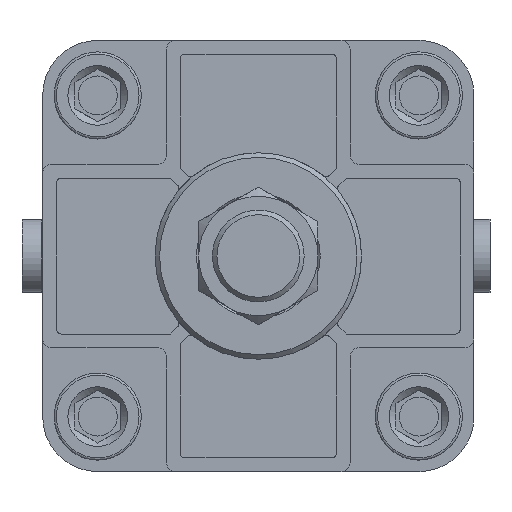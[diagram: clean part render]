
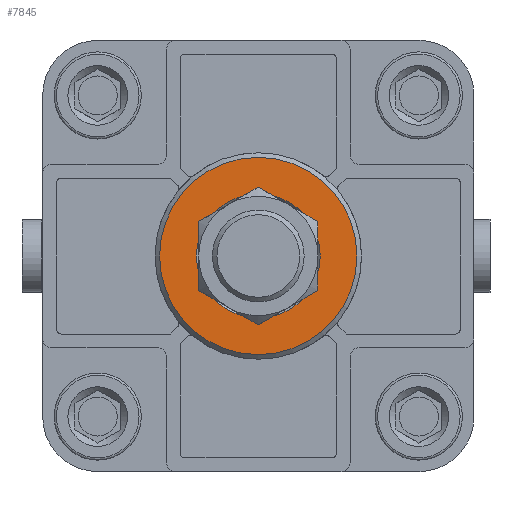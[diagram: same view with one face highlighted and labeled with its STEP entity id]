
A CAD part, front view. The second image highlights one B-rep face of the part: STEP entity #7845.
In plain terms, the highlighted planar face has unit normal (0, -1, 0).
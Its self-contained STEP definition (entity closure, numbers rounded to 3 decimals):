
#1308=ORIENTED_EDGE('',*,*,#3015,.T.);
#1309=ORIENTED_EDGE('',*,*,#3017,.T.);
#3015=EDGE_CURVE('',#3871,#3871,#4469,.T.);
#3017=EDGE_CURVE('',#3873,#3873,#4471,.F.);
#3871=VERTEX_POINT('',#10907);
#3873=VERTEX_POINT('',#10913);
#4469=CIRCLE('',#8260,13.5);
#4471=CIRCLE('',#8264,21.5);
#4793=EDGE_LOOP('',(#1308));
#4794=EDGE_LOOP('',(#1309));
#5315=FACE_BOUND('',#4793,.T.);
#5316=FACE_BOUND('',#4794,.T.);
#5829=PLANE('',#8263);
#7845=ADVANCED_FACE('',(#5315,#5316),#5829,.F.);
#8260=AXIS2_PLACEMENT_3D('',#10906,#8983,#8984);
#8263=AXIS2_PLACEMENT_3D('',#10911,#8989,#8990);
#8264=AXIS2_PLACEMENT_3D('',#10912,#8991,#8992);
#8983=DIRECTION('',(0.,1.,0.));
#8984=DIRECTION('',(0.,0.,1.));
#8989=DIRECTION('',(0.,1.,0.));
#8990=DIRECTION('',(0.,0.,1.));
#8991=DIRECTION('',(0.,1.,0.));
#8992=DIRECTION('',(0.,0.,1.));
#10906=CARTESIAN_POINT('',(0.,-56.,0.));
#10907=CARTESIAN_POINT('',(0.,-56.,13.5));
#10911=CARTESIAN_POINT('',(0.,-56.,0.));
#10912=CARTESIAN_POINT('',(0.,-56.,0.));
#10913=CARTESIAN_POINT('',(0.,-56.,21.5));
